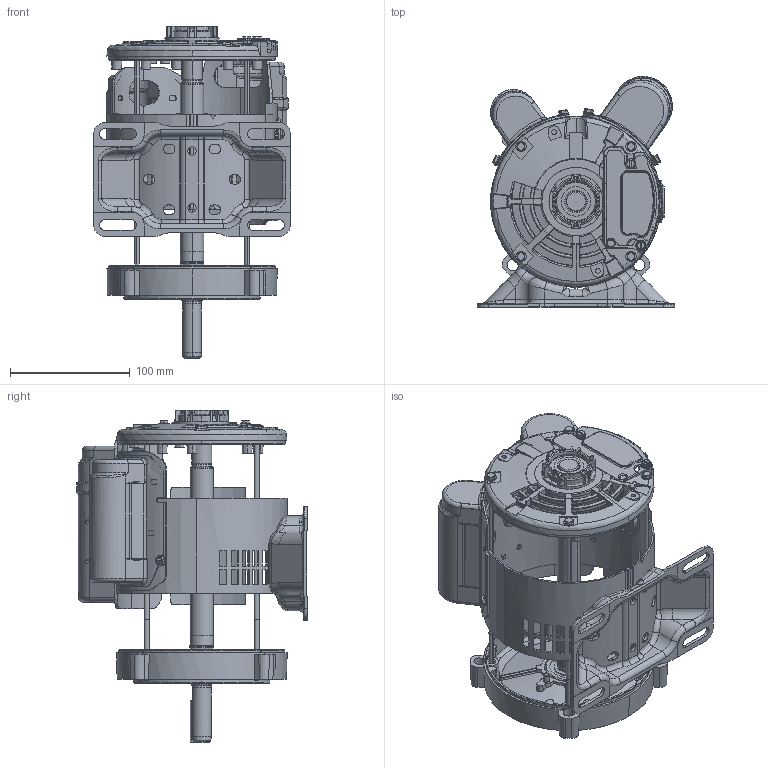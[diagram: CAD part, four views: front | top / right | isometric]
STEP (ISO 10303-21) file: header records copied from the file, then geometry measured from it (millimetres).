
FILE_DESCRIPTION (( 'STEP AP203' ), '1' );
FILE_NAME ('SS404164-750_RevF.STEP', '2019-05-13T13:15:24', ( '' ), ( '' ), 'SwSTEP 2.0', 'SolidWorks 2015', '' );
FILE_SCHEMA (( 'CONFIG_CONTROL_DESIGN' ));
Products named in the file (1): SS404164-750_RevF
Bounding box: 165.1 x 193.05 x 277.79 mm (x, y, z)
Volume: 464842.3 mm3; surface area: 407004 mm2
Topology: 30 solids, 30 shells, 3606 faces, 9379 edges, 5847 vertices
Faces by surface type: plane 1449, cylinder 801, bspline 634, cone 393, torus 317, sphere 12
Entity records: 143576 total; most frequent: CARTESIAN_POINT 61173, ORIENTED_EDGE 18634, DIRECTION 15626, EDGE_CURVE 9317, AXIS2_PLACEMENT_3D 6123, VERTEX_POINT 5839, EDGE_LOOP 3848, FACE_OUTER_BOUND 3606
